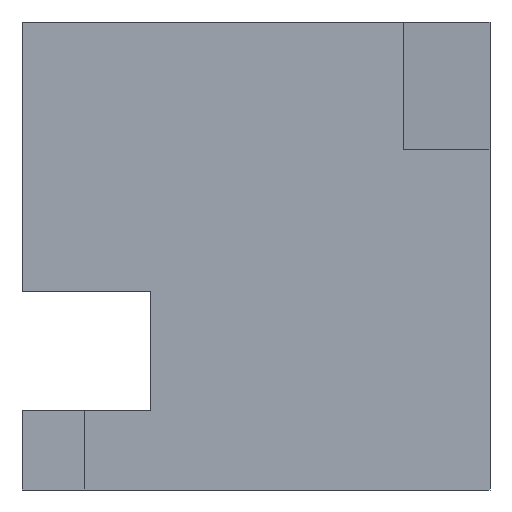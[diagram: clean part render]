
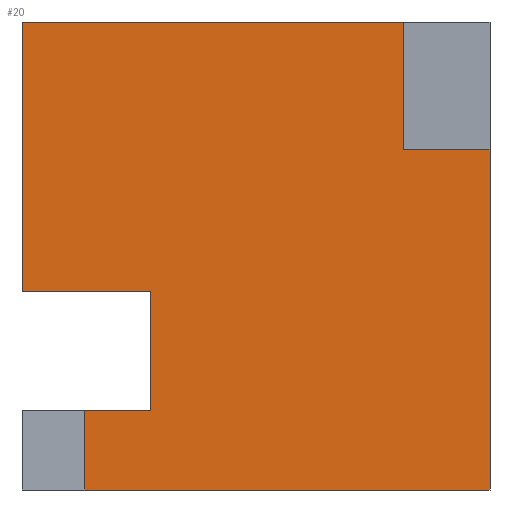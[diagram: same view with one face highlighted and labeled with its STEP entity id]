
A CAD part, front view. The second image highlights one B-rep face of the part: STEP entity #20.
In plain terms, the highlighted planar face has unit normal (0, -1, 0).
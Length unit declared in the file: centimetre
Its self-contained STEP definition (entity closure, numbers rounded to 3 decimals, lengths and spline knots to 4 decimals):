
#9 = FACE_OUTER_BOUND ( 'NONE', #913, .T. ) ;
#18 = DIRECTION ( 'NONE',  ( 0., 0., -1. ) ) ;
#20 = ADVANCED_FACE ( 'NONE', ( #9 ), #344, .F. ) ;
#37 = DIRECTION ( 'NONE',  ( 0., 0., -1. ) ) ;
#46 = VERTEX_POINT ( 'NONE', #247 ) ;
#52 = VERTEX_POINT ( 'NONE', #225 ) ;
#65 = CARTESIAN_POINT ( 'NONE',  ( 133.8634, 0., 0. ) ) ;
#72 = ORIENTED_EDGE ( 'NONE', *, *, #1049, .F. ) ;
#82 = VECTOR ( 'NONE', #928, 100. ) ;
#89 = VERTEX_POINT ( 'NONE', #978 ) ;
#106 = DIRECTION ( 'NONE',  ( 1., 0., 0. ) ) ;
#117 = VECTOR ( 'NONE', #863, 100. ) ;
#122 = EDGE_CURVE ( 'NONE', #46, #805, #607, .T. ) ;
#136 = ORIENTED_EDGE ( 'NONE', *, *, #182, .F. ) ;
#151 = DIRECTION ( 'NONE',  ( 1., 0., 0. ) ) ;
#167 = LINE ( 'NONE', #761, #1010 ) ;
#182 = EDGE_CURVE ( 'NONE', #739, #89, #167, .T. ) ;
#191 = VECTOR ( 'NONE', #868, 100. ) ;
#195 = LINE ( 'NONE', #617, #853 ) ;
#225 = CARTESIAN_POINT ( 'NONE',  ( 133.8634, 0., 168.8965 ) ) ;
#232 = ORIENTED_EDGE ( 'NONE', *, *, #610, .F. ) ;
#244 = ORIENTED_EDGE ( 'NONE', *, *, #471, .F. ) ;
#247 = CARTESIAN_POINT ( 'NONE',  ( 274.7858, 0., 168.8965 ) ) ;
#250 = VECTOR ( 'NONE', #151, 100. ) ;
#260 = LINE ( 'NONE', #333, #808 ) ;
#262 = ORIENTED_EDGE ( 'NONE', *, *, #122, .F. ) ;
#292 = LINE ( 'NONE', #374, #117 ) ;
#294 = EDGE_CURVE ( 'NONE', #338, #315, #845, .T. ) ;
#298 = CARTESIAN_POINT ( 'NONE',  ( 133.8634, 0., 0. ) ) ;
#315 = VERTEX_POINT ( 'NONE', #439 ) ;
#333 = CARTESIAN_POINT ( 'NONE',  ( 815.0092, 0., 728.3839 ) ) ;
#338 = VERTEX_POINT ( 'NONE', #532 ) ;
#344 = PLANE ( 'NONE',  #974 ) ;
#374 = CARTESIAN_POINT ( 'NONE',  ( 0., 0., 0. ) ) ;
#382 = CARTESIAN_POINT ( 'NONE',  ( 815.0092, 0., 1000. ) ) ;
#394 = ORIENTED_EDGE ( 'NONE', *, *, #789, .T. ) ;
#407 = VERTEX_POINT ( 'NONE', #382 ) ;
#417 = ORIENTED_EDGE ( 'NONE', *, *, #661, .F. ) ;
#439 = CARTESIAN_POINT ( 'NONE',  ( 0., 0., 424.548 ) ) ;
#456 = EDGE_CURVE ( 'NONE', #805, #315, #475, .T. ) ;
#471 = EDGE_CURVE ( 'NONE', #763, #52, #1038, .T. ) ;
#475 = LINE ( 'NONE', #1033, #943 ) ;
#487 = CARTESIAN_POINT ( 'NONE',  ( 0., 0., 168.8965 ) ) ;
#488 = LINE ( 'NONE', #571, #250 ) ;
#528 = ORIENTED_EDGE ( 'NONE', *, *, #456, .F. ) ;
#532 = CARTESIAN_POINT ( 'NONE',  ( 0., 0., 1000. ) ) ;
#562 = DIRECTION ( 'NONE',  ( 0., 1., 0. ) ) ;
#571 = CARTESIAN_POINT ( 'NONE',  ( 0., 0., 1000. ) ) ;
#592 = LINE ( 'NONE', #487, #945 ) ;
#607 = LINE ( 'NONE', #682, #82 ) ;
#610 = EDGE_CURVE ( 'NONE', #52, #46, #592, .T. ) ;
#617 = CARTESIAN_POINT ( 'NONE',  ( 815.0092, 0., 728.3839 ) ) ;
#661 = EDGE_CURVE ( 'NONE', #724, #739, #195, .T. ) ;
#682 = CARTESIAN_POINT ( 'NONE',  ( 274.7858, 0., 168.8965 ) ) ;
#685 = CARTESIAN_POINT ( 'NONE',  ( 1000., 0., 728.3839 ) ) ;
#713 = DIRECTION ( 'NONE',  ( -1., 0., 0. ) ) ;
#716 = CARTESIAN_POINT ( 'NONE',  ( 274.7858, 0., 424.548 ) ) ;
#724 = VERTEX_POINT ( 'NONE', #848 ) ;
#727 = DIRECTION ( 'NONE',  ( 0., 0., 1. ) ) ;
#739 = VERTEX_POINT ( 'NONE', #685 ) ;
#761 = CARTESIAN_POINT ( 'NONE',  ( 1000., 0., 1000. ) ) ;
#763 = VERTEX_POINT ( 'NONE', #65 ) ;
#769 = VECTOR ( 'NONE', #37, 100. ) ;
#789 = EDGE_CURVE ( 'NONE', #763, #89, #292, .T. ) ;
#805 = VERTEX_POINT ( 'NONE', #716 ) ;
#808 = VECTOR ( 'NONE', #727, 100. ) ;
#839 = ORIENTED_EDGE ( 'NONE', *, *, #294, .T. ) ;
#845 = LINE ( 'NONE', #939, #769 ) ;
#848 = CARTESIAN_POINT ( 'NONE',  ( 815.0092, 0., 728.3839 ) ) ;
#853 = VECTOR ( 'NONE', #106, 100. ) ;
#863 = DIRECTION ( 'NONE',  ( 1., 0., 0. ) ) ;
#868 = DIRECTION ( 'NONE',  ( 0., 0., 1. ) ) ;
#913 = EDGE_LOOP ( 'NONE', ( #417, #1044, #72, #839, #528, #262, #232, #244, #394, #136 ) ) ;
#928 = DIRECTION ( 'NONE',  ( 0., 0., 1. ) ) ;
#939 = CARTESIAN_POINT ( 'NONE',  ( 0., 0., 1000. ) ) ;
#943 = VECTOR ( 'NONE', #713, 100. ) ;
#945 = VECTOR ( 'NONE', #1059, 100. ) ;
#974 = AXIS2_PLACEMENT_3D ( 'NONE', #1002, #562, #985 ) ;
#978 = CARTESIAN_POINT ( 'NONE',  ( 1000., 0., 0. ) ) ;
#982 = EDGE_CURVE ( 'NONE', #724, #407, #260, .T. ) ;
#985 = DIRECTION ( 'NONE',  ( 0., 0., 1. ) ) ;
#1002 = CARTESIAN_POINT ( 'NONE',  ( 0., 0., 1000. ) ) ;
#1010 = VECTOR ( 'NONE', #18, 100. ) ;
#1033 = CARTESIAN_POINT ( 'NONE',  ( 0., 0., 424.548 ) ) ;
#1038 = LINE ( 'NONE', #298, #191 ) ;
#1044 = ORIENTED_EDGE ( 'NONE', *, *, #982, .T. ) ;
#1049 = EDGE_CURVE ( 'NONE', #338, #407, #488, .T. ) ;
#1059 = DIRECTION ( 'NONE',  ( 1., 0., 0. ) ) ;
